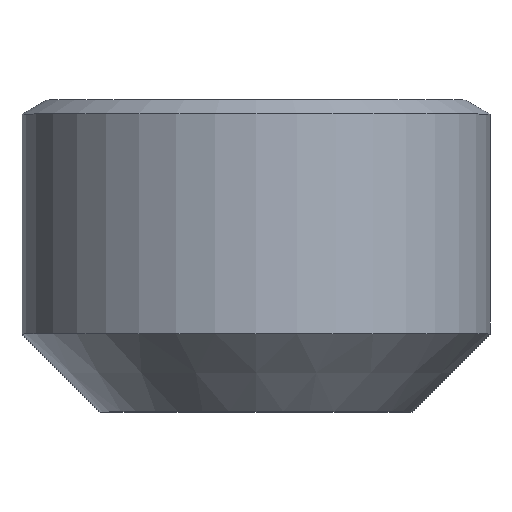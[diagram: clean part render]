
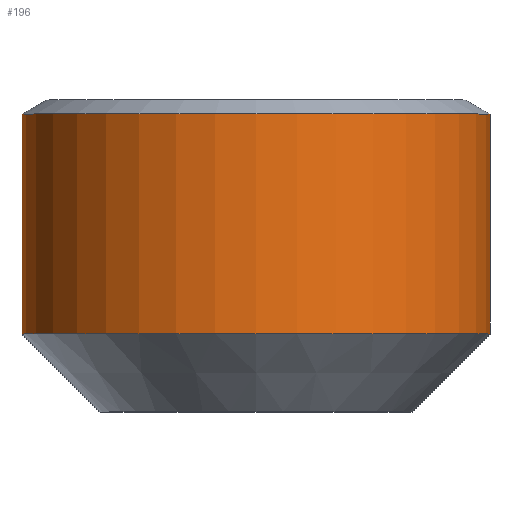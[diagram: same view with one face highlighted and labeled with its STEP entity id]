
A CAD part, top view. The second image highlights one B-rep face of the part: STEP entity #196.
In plain terms, the highlighted cylindrical face has radius 3 mm (diameter 6 mm), a full revolution.
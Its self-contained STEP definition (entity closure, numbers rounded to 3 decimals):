
#31=CYLINDRICAL_SURFACE('',#230,3.);
#33=FACE_OUTER_BOUND('',#45,.T.);
#45=EDGE_LOOP('',(#142,#143,#144,#145));
#58=LINE('',#303,#74);
#74=VECTOR('',#256,3.);
#90=CIRCLE('',#229,3.);
#91=CIRCLE('',#231,3.);
#94=VERTEX_POINT('',#297);
#95=VERTEX_POINT('',#301);
#113=EDGE_CURVE('',#94,#94,#90,.T.);
#114=EDGE_CURVE('',#95,#95,#91,.T.);
#115=EDGE_CURVE('',#95,#94,#58,.T.);
#142=ORIENTED_EDGE('',*,*,#114,.F.);
#143=ORIENTED_EDGE('',*,*,#115,.T.);
#144=ORIENTED_EDGE('',*,*,#113,.F.);
#145=ORIENTED_EDGE('',*,*,#115,.F.);
#196=ADVANCED_FACE('',(#33),#31,.T.);
#229=AXIS2_PLACEMENT_3D('',#299,#250,#251);
#230=AXIS2_PLACEMENT_3D('',#300,#252,#253);
#231=AXIS2_PLACEMENT_3D('',#302,#254,#255);
#250=DIRECTION('center_axis',(0.,-1.,0.));
#251=DIRECTION('ref_axis',(1.,0.,0.));
#252=DIRECTION('center_axis',(0.,1.,0.));
#253=DIRECTION('ref_axis',(1.,0.,0.));
#254=DIRECTION('center_axis',(0.,1.,0.));
#255=DIRECTION('ref_axis',(1.,0.,0.));
#256=DIRECTION('',(0.,-1.,0.));
#297=CARTESIAN_POINT('',(-3.,1.,0.));
#299=CARTESIAN_POINT('Origin',(0.,1.,0.));
#300=CARTESIAN_POINT('Origin',(0.,0.,0.));
#301=CARTESIAN_POINT('',(-3.,3.82,0.));
#302=CARTESIAN_POINT('Origin',(0.,3.82,0.));
#303=CARTESIAN_POINT('',(-3.,0.,0.));
